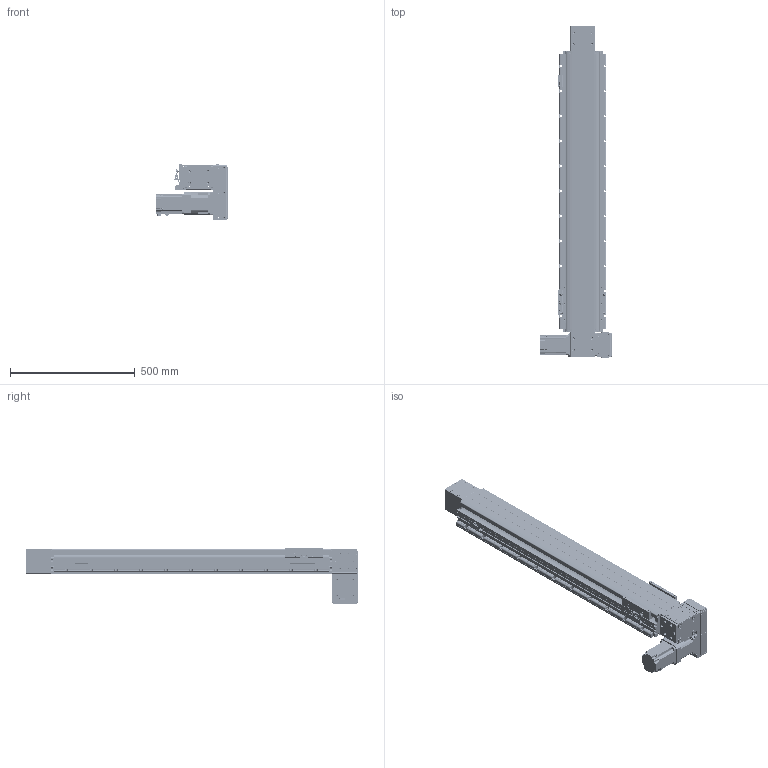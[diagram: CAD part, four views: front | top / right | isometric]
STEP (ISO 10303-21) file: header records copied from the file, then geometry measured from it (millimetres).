
FILE_DESCRIPTION(/* description */ (''),/* implementation_level */ '2;1');
FILE_NAME(/* name */ '\\192.168.0.160\disk1\HAN SHIN Master\B-설계부문\C-표준\B-2024년\BC02-표준도면\+로봇 개선표준도면\홈페이지 표준 도면\홈페이지 최종 작업 폴더\3D\HSB\HSB160\HSB160-DR7G-N-0900-L.stp',/* time_stamp */ '2025-01-10T13:34:21+09:00',/* author */ ('user'),/* organization */ (''),/* preprocessor_version */ 'ST-DEVELOPER v18.1',/* originating_system */ 'Autodesk Inventor 2022',/* authorisation */ '');
FILE_SCHEMA (('AUTOMOTIVE_DESIGN { 1 0 10303 214 3 1 1 }'));
Products named in the file (42): HSB160-DR7G-N-0500-L; BASE; HSB160 TABLE (TEST); FORNT HOUSUNG-1 (Connecting); UPCOVER; HSB160 COVER-1; REAR HOUSUNG-1---; HSB160 REAR SHAFT-2; REAR SHAFT--2; 6004ZZ; 6004ZZ Outer ring; 6004ZZ Shield1; 6004ZZ Inner ring; 6004ZZ Ball; 6004ZZ Shield2; STOPPER3; TENSION PLATE; HSB160 ARC COVER; hsr_ftht_A-M6F_grease_nipple_joint; NIPPLE CAP(신규); SIDE COVER; HSB160 SHAFT-1; HSB160 END COVER; HR120 SENSOR DOG; SENSOR BRK(EE-SX674A); EE_SX674A; hg-kr73_; PGX90-H-1_3; 6206ZZ; 6206ZZ Outer ring; 6206ZZ Shield1; 6206ZZ Inner ring; 6206ZZ Ball; 6206ZZ Shield2; D MOTOR PLATE ASSY; HSB160 D MOTOR PLATE; HR160 400W LR BELT COVER; 750W MOTOR PLATE; HR180 ACRYL COVER - 1; HR180 ACRYL COVER - 1_1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
Assembly tree (87 placements, depth 3):
  HSB160-DR7G-N-0500-L
    BASE
    HSB160 TABLE (TEST)
    FORNT HOUSUNG-1 (Connecting)
    6206ZZ  x2
      6206ZZ Outer ring
      6206ZZ Shield1
      6206ZZ Inner ring
      6206ZZ Ball
      6206ZZ Shield2
    UPCOVER
    HSB160 COVER-1  x2
    REAR HOUSUNG-1---
    6004ZZ  x2
      6004ZZ Outer ring
      6004ZZ Shield1
      6004ZZ Inner ring
      6004ZZ Ball
      6004ZZ Shield2
    HSB160 REAR SHAFT-2
    REAR SHAFT--2
    TENSION PLATE  x2
    HSB160 ARC COVER  x4
    STOPPER3  x4
    SIDE COVER  x2
    hsr_ftht_A-M6F_grease_nipple_joint  x4
    NIPPLE CAP(신규)  x4
    HSB160 SHAFT-1
    HSB160 END COVER
    SENSOR BRK(EE-SX674A)  x3
    EE_SX674A  x3
    HR120 SENSOR DOG
    hg-kr73_
    PGX90-H-1_3
    D MOTOR PLATE ASSY
      HSB160 D MOTOR PLATE
      HR160 400W LR BELT COVER
      750W MOTOR PLATE
      HR180 ACRYL COVER - 1_2  x2
      HR180 ACRYL COVER - 1
      HR180 ACRYL COVER - 1_1
    HSB160 BEARING COVER_대칭도
Bounding box: 284.5 x 1328.5 x 226.5 mm (x, y, z)
Volume: 9161305.9 mm3; surface area: 2386763.6 mm2
Topology: 131 solids, 133 shells, 6554 faces, 18011 edges, 11840 vertices
Faces by surface type: plane 4580, cylinder 1421, cone 381, sphere 88, torus 59, bspline 25
Full cylindrical faces by diameter (mm): 2.013 x2, 2.459 x54, 3 x20, 3.242 x50, 3.4 x22, 3.5 x6, 4.134 x18, 4.2 x4, 4.5 x40, 4.917 x80, 5 x44, 5.1 x1, 5.5 x25, 5.6 x4, 5.9 x4, 6 x21, 6.5 x9, 6.6 x18, 6.8 x9, 7 x32, 7.6 x4, 8 x5, 8.376 x22, 8.433 x2, 9 x4, 9.5 x31, 10 x5, 11 x28, 15 x8, 18.5 x2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
Entity records: 120760 total; most frequent: CARTESIAN_POINT 22829, DIRECTION 20098, ORIENTED_EDGE 19478, EDGE_CURVE 9739, AXIS2_PLACEMENT_3D 6844, VERTEX_POINT 6441, LINE 6410, VECTOR 6410
